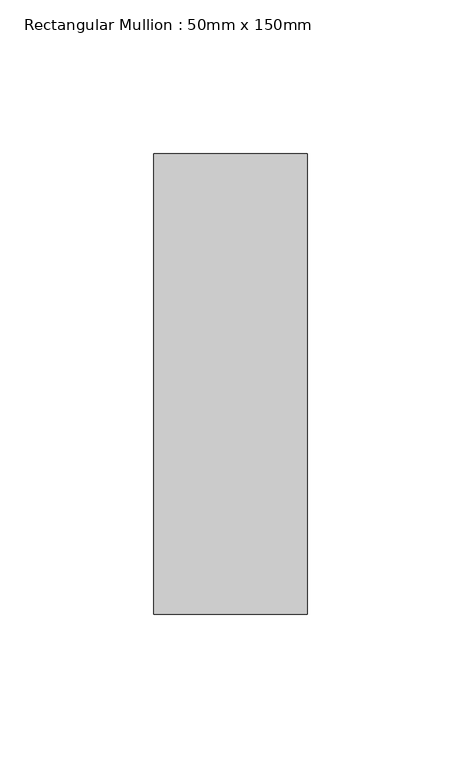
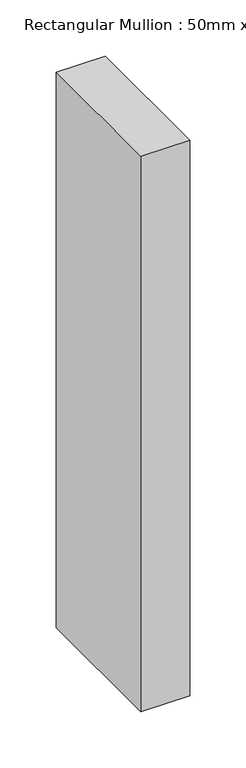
"""IFC4 building model written with IfcOpenShell, lengths in millimetres: member geometry, Rectangular Mullion : 50mm x 150mm."""

from ifc_helpers import new_model, si_unit, frame, origin, place, context, project, spatial, polyline, outline, extrude, source, transform, mapped, element, save


def rectangular_mullion_50mm_x_150mm_a3f7cd42(model_context):
    return source(origin(), model_context, "Body", "SweptSolid", [
        extrude(outline(polyline([(25.0, 75.0), (25.0, -75.0), (-25.0, -75.0), (-25.0, 75.0), (25.0, 75.0)])), frame((0.0, 0.0, -601.9934774), z_axis=(0.0, 0.0, 1.0), x_axis=(1.0, 0.0, 0.0)), (0.0, 0.0, 1.0), 601.9934774),
    ])


if __name__ == "__main__":
    model = new_model("IFC4")
    model_context = context("Model", 3, world=origin())
    ifc_project = project(units=[si_unit("LENGTHUNIT", "METRE", prefix="MILLI")], contexts=[model_context])
    site = spatial("IfcSite", under=ifc_project)
    building = spatial("IfcBuilding", under=site)
    placement = place(None, origin())
    rectangular_mullion_50mm_x_150mm_shape = rectangular_mullion_50mm_x_150mm_a3f7cd42(model_context)
    element("IfcMember", 1, ObjectType="Rectangular Mullion : 50mm x 150mm", at=placement, inside=building, context=model_context, shape_type="MappedRepresentation", body=[
        mapped(rectangular_mullion_50mm_x_150mm_shape, transform((0.0, 0.0, 0.0), x_axis=(1.0, 0.0, 0.0), y_axis=(0.0, 1.0, 0.0), z_axis=(0.0, 0.0, 1.0))),
    ])
    save(model, "model.ifc")
